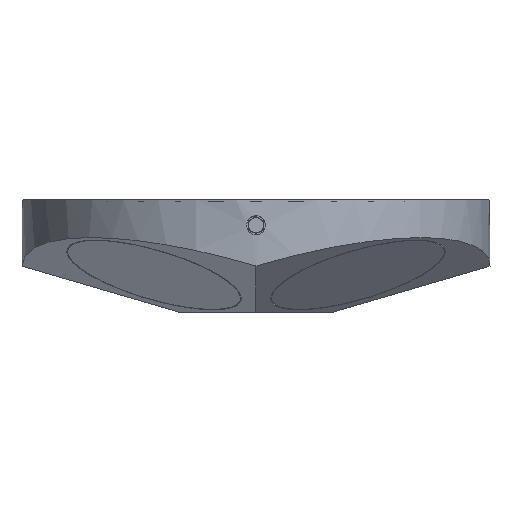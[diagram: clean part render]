
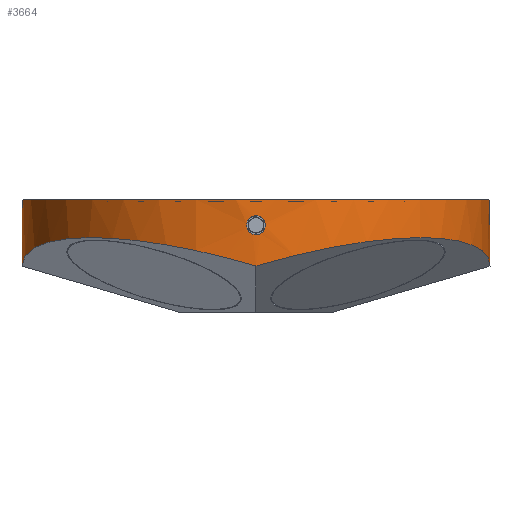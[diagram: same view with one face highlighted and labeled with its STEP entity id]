
A CAD part, top view. The second image highlights one B-rep face of the part: STEP entity #3664.
In plain terms, the highlighted cylindrical face has radius 62.5 mm (diameter 125 mm), a partial arc.
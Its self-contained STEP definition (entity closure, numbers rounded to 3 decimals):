
#129=ELLIPSE('',#4008,67.65,62.5);
#130=ELLIPSE('',#4018,67.65,62.5);
#131=ELLIPSE('',#4027,67.65,62.5);
#132=ELLIPSE('',#4036,67.65,62.5);
#202=FACE_BOUND('',#656,.T.);
#394=FACE_OUTER_BOUND('',#655,.T.);
#655=EDGE_LOOP('',(#2702,#2703,#2704,#2705,#2706,#2707,#2708));
#656=EDGE_LOOP('',(#2709,#2710,#2711));
#864=CIRCLE('',#3988,62.5);
#1035=LINE('',#5696,#1280);
#1036=LINE('',#5698,#1281);
#1280=VECTOR('',#4595,10.);
#1281=VECTOR('',#4596,10.);
#1488=B_SPLINE_CURVE_WITH_KNOTS('',3,(#5446,#5447,#5448,#5449,#5450,#5451,
#5452,#5453,#5454,#5455),.UNSPECIFIED.,.F.,.F.,(4,2,2,2,4),(0.377,
0.471,0.565,0.659,0.753),
 .UNSPECIFIED.);
#1489=B_SPLINE_CURVE_WITH_KNOTS('',3,(#5457,#5458,#5459,#5460,#5461,#5462,
#5463,#5464,#5465,#5466,#5467,#5468,#5469,#5470,#5471,#5472,#5473,#5474,
#5475),.UNSPECIFIED.,.F.,.F.,(4,2,2,2,3,2,2,2,4),(1.13,1.224,
1.319,1.413,1.507,1.601,1.695,
1.789,1.884),.UNSPECIFIED.);
#1490=B_SPLINE_CURVE_WITH_KNOTS('',3,(#5476,#5477,#5478,#5479,#5480,#5481,
#5482,#5483,#5484,#5485),.UNSPECIFIED.,.F.,.F.,(4,2,2,2,4),(0.753,
0.848,0.942,1.036,1.13),
 .UNSPECIFIED.);
#1563=VERTEX_POINT('',#5444);
#1564=VERTEX_POINT('',#5445);
#1565=VERTEX_POINT('',#5456);
#1613=VERTEX_POINT('',#5657);
#1614=VERTEX_POINT('',#5658);
#1624=VERTEX_POINT('',#5693);
#1626=VERTEX_POINT('',#5697);
#1627=VERTEX_POINT('',#5701);
#1635=VERTEX_POINT('',#5724);
#1641=VERTEX_POINT('',#5743);
#1908=EDGE_CURVE('',#1563,#1564,#1488,.T.);
#1909=EDGE_CURVE('',#1565,#1563,#1489,.T.);
#1910=EDGE_CURVE('',#1564,#1565,#1490,.T.);
#1989=EDGE_CURVE('',#1613,#1614,#864,.T.);
#2005=EDGE_CURVE('',#1614,#1624,#1035,.T.);
#2006=EDGE_CURVE('',#1626,#1613,#1036,.T.);
#2008=EDGE_CURVE('',#1627,#1626,#129,.T.);
#2019=EDGE_CURVE('',#1635,#1627,#130,.T.);
#2028=EDGE_CURVE('',#1641,#1635,#131,.T.);
#2038=EDGE_CURVE('',#1624,#1641,#132,.T.);
#2702=ORIENTED_EDGE('',*,*,#2005,.T.);
#2703=ORIENTED_EDGE('',*,*,#2038,.T.);
#2704=ORIENTED_EDGE('',*,*,#2028,.T.);
#2705=ORIENTED_EDGE('',*,*,#2019,.T.);
#2706=ORIENTED_EDGE('',*,*,#2008,.T.);
#2707=ORIENTED_EDGE('',*,*,#2006,.T.);
#2708=ORIENTED_EDGE('',*,*,#1989,.T.);
#2709=ORIENTED_EDGE('',*,*,#1909,.T.);
#2710=ORIENTED_EDGE('',*,*,#1908,.T.);
#2711=ORIENTED_EDGE('',*,*,#1910,.T.);
#3533=CYLINDRICAL_SURFACE('',#4049,62.5);
#3664=ADVANCED_FACE('',(#394,#202),#3533,.T.);
#3988=AXIS2_PLACEMENT_3D('',#5660,#4551,#4552);
#4008=AXIS2_PLACEMENT_3D('',#5702,#4600,#4601);
#4018=AXIS2_PLACEMENT_3D('',#5725,#4625,#4626);
#4027=AXIS2_PLACEMENT_3D('',#5744,#4647,#4648);
#4036=AXIS2_PLACEMENT_3D('',#5763,#4670,#4671);
#4049=AXIS2_PLACEMENT_3D('',#5781,#4698,#4699);
#4551=DIRECTION('center_axis',(0.,-1.,0.));
#4552=DIRECTION('ref_axis',(1.,0.,0.));
#4595=DIRECTION('',(0.,-1.,0.));
#4596=DIRECTION('',(0.,1.,0.));
#4600=DIRECTION('center_axis',(-0.271,0.924,0.271));
#4601=DIRECTION('ref_axis',(0.653,0.383,-0.653));
#4625=DIRECTION('center_axis',(-0.271,0.924,-0.271));
#4626=DIRECTION('ref_axis',(0.653,0.383,0.653));
#4647=DIRECTION('center_axis',(0.271,0.924,-0.271));
#4648=DIRECTION('ref_axis',(0.653,-0.383,-0.653));
#4670=DIRECTION('center_axis',(0.271,0.924,0.271));
#4671=DIRECTION('ref_axis',(0.653,-0.383,0.653));
#4698=DIRECTION('center_axis',(0.,-1.,0.));
#4699=DIRECTION('ref_axis',(0.,0.,1.));
#5444=CARTESIAN_POINT('',(0.,32.775,62.5));
#5445=CARTESIAN_POINT('',(-2.5,35.275,62.45));
#5446=CARTESIAN_POINT('Ctrl Pts',(0.,32.775,62.5));
#5447=CARTESIAN_POINT('Ctrl Pts',(-0.314,32.775,62.5));
#5448=CARTESIAN_POINT('Ctrl Pts',(-0.649,32.838,62.497));
#5449=CARTESIAN_POINT('Ctrl Pts',(-1.265,33.093,62.488));
#5450=CARTESIAN_POINT('Ctrl Pts',(-1.546,33.285,62.481));
#5451=CARTESIAN_POINT('Ctrl Pts',(-1.99,33.729,62.469));
#5452=CARTESIAN_POINT('Ctrl Pts',(-2.182,34.01,62.462));
#5453=CARTESIAN_POINT('Ctrl Pts',(-2.437,34.626,62.453));
#5454=CARTESIAN_POINT('Ctrl Pts',(-2.5,34.961,62.45));
#5455=CARTESIAN_POINT('Ctrl Pts',(-2.5,35.275,62.45));
#5456=CARTESIAN_POINT('',(0.,37.775,62.5));
#5457=CARTESIAN_POINT('Ctrl Pts',(0.,37.775,62.5));
#5458=CARTESIAN_POINT('Ctrl Pts',(0.314,37.775,62.5));
#5459=CARTESIAN_POINT('Ctrl Pts',(0.649,37.712,62.497));
#5460=CARTESIAN_POINT('Ctrl Pts',(1.265,37.457,62.488));
#5461=CARTESIAN_POINT('Ctrl Pts',(1.546,37.265,62.481));
#5462=CARTESIAN_POINT('Ctrl Pts',(1.99,36.821,62.469));
#5463=CARTESIAN_POINT('Ctrl Pts',(2.182,36.54,62.462));
#5464=CARTESIAN_POINT('Ctrl Pts',(2.437,35.924,62.453));
#5465=CARTESIAN_POINT('Ctrl Pts',(2.5,35.589,62.45));
#5466=CARTESIAN_POINT('Ctrl Pts',(2.5,35.275,62.45));
#5467=CARTESIAN_POINT('Ctrl Pts',(2.5,34.961,62.45));
#5468=CARTESIAN_POINT('Ctrl Pts',(2.437,34.626,62.453));
#5469=CARTESIAN_POINT('Ctrl Pts',(2.182,34.01,62.462));
#5470=CARTESIAN_POINT('Ctrl Pts',(1.99,33.729,62.469));
#5471=CARTESIAN_POINT('Ctrl Pts',(1.546,33.285,62.481));
#5472=CARTESIAN_POINT('Ctrl Pts',(1.265,33.093,62.488));
#5473=CARTESIAN_POINT('Ctrl Pts',(0.649,32.838,62.497));
#5474=CARTESIAN_POINT('Ctrl Pts',(0.314,32.775,62.5));
#5475=CARTESIAN_POINT('Ctrl Pts',(0.,32.775,62.5));
#5476=CARTESIAN_POINT('Ctrl Pts',(-2.5,35.275,62.45));
#5477=CARTESIAN_POINT('Ctrl Pts',(-2.5,35.589,62.45));
#5478=CARTESIAN_POINT('Ctrl Pts',(-2.437,35.924,62.453));
#5479=CARTESIAN_POINT('Ctrl Pts',(-2.182,36.54,62.462));
#5480=CARTESIAN_POINT('Ctrl Pts',(-1.99,36.821,62.469));
#5481=CARTESIAN_POINT('Ctrl Pts',(-1.546,37.265,62.481));
#5482=CARTESIAN_POINT('Ctrl Pts',(-1.265,37.457,62.488));
#5483=CARTESIAN_POINT('Ctrl Pts',(-0.649,37.712,62.497));
#5484=CARTESIAN_POINT('Ctrl Pts',(-0.314,37.775,62.5));
#5485=CARTESIAN_POINT('Ctrl Pts',(0.,37.775,62.5));
#5657=CARTESIAN_POINT('',(8.,42.125,-61.986));
#5658=CARTESIAN_POINT('',(-8.,42.125,-61.986));
#5660=CARTESIAN_POINT('Origin',(0.,42.125,0.));
#5693=CARTESIAN_POINT('',(-8.,26.608,-61.986));
#5696=CARTESIAN_POINT('',(-8.,27.125,-61.986));
#5697=CARTESIAN_POINT('',(8.,26.608,-61.986));
#5698=CARTESIAN_POINT('',(8.,27.125,-61.986));
#5701=CARTESIAN_POINT('',(62.5,24.415,0.));
#5702=CARTESIAN_POINT('Origin',(0.,6.109,0.));
#5724=CARTESIAN_POINT('',(0.,24.415,62.5));
#5725=CARTESIAN_POINT('Origin',(0.,6.109,0.));
#5743=CARTESIAN_POINT('',(-62.5,24.415,0.));
#5744=CARTESIAN_POINT('Origin',(0.,6.109,0.));
#5763=CARTESIAN_POINT('Origin',(0.,6.109,0.));
#5781=CARTESIAN_POINT('Origin',(0.,27.125,0.));
